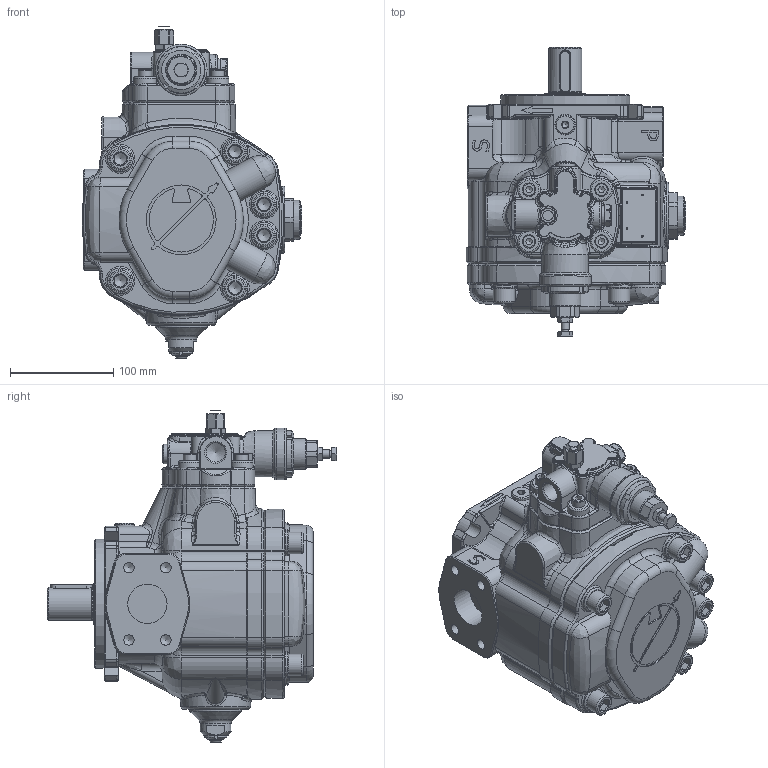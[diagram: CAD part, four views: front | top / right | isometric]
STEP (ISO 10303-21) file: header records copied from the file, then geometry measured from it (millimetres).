
FILE_DESCRIPTION(/* description */ (''),/* implementation_level */ '2;1');
FILE_NAME(/* name */ 'W:\Tecnico\Archivio\Dimensioni Pompe\3D Export\PHP\01 PHP 2 FHRM PCS006.stp',/* time_stamp */ '2020-08-31T10:05:26+02:00',/* author */ ('marcop'),/* organization */ (''),/* preprocessor_version */ 'ST-DEVELOPER v17',/* originating_system */ 'Autodesk Inventor 2018',/* authorisation */ '');
FILE_SCHEMA (('AUTOMOTIVE_DESIGN { 1 0 10303 214 3 1 1 }'));
Products named in the file (1): PLP - PHP 2_Shrinkwrap_1
Bounding box: 212.17 x 280.2 x 321.1 mm (x, y, z)
Volume: 4516525.1 mm3; surface area: 400056.3 mm2
Topology: 2 solids, 2 shells, 1941 faces, 4868 edges, 2975 vertices
Faces by surface type: plane 556, cylinder 507, bspline 428, torus 230, cone 186, sphere 34
Full cylindrical faces by diameter (mm): 1.7 x4, 2.5 x3, 3 x1, 6.5 x1, 6.917 x1, 7 x1, 8 x2, 8.376 x4, 10 x1, 10.106 x4, 12 x2, 13 x4, 13.6 x2, 14 x1, 15.5 x1, 18.631 x1, 19 x4, 20 x4, 21 x6, 23 x1, 25 x7, 30 x4, 31.5 x1, 32 x1, 35 x1, 38 x2, 40 x3, 44 x3, 44.2 x1, 45 x1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
Entity records: 73868 total; most frequent: CARTESIAN_POINT 28116, ORIENTED_EDGE 9624, DIRECTION 8654, EDGE_CURVE 4812, AXIS2_PLACEMENT_3D 3521, VERTEX_POINT 2975, EDGE_LOOP 2045, CIRCLE 1954
